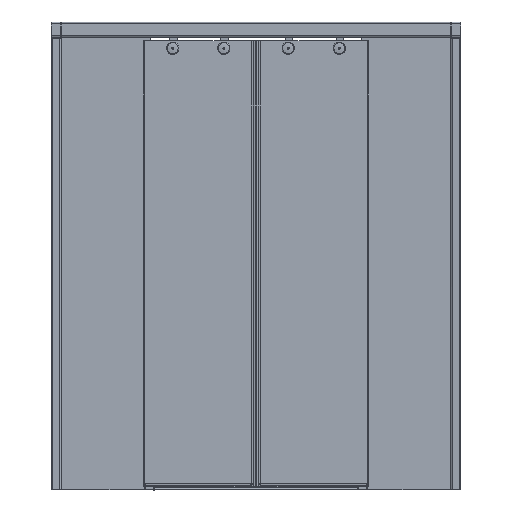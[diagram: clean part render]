
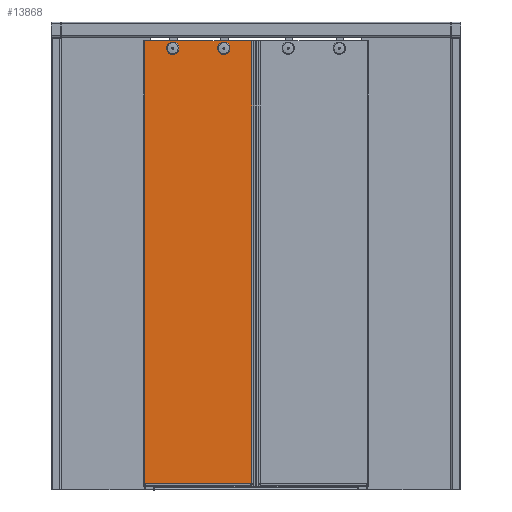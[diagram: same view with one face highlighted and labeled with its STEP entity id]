
A CAD part, left-side view. The second image highlights one B-rep face of the part: STEP entity #13868.
In plain terms, the highlighted planar face has unit normal (-1, 0, 0).
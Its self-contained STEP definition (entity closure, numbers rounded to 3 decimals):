
#365=FACE_BOUND($,#1385,.T.);
#366=FACE_BOUND($,#1386,.T.);
#367=FACE_BOUND($,#1387,.T.);
#1385=EDGE_LOOP($,(#9057));
#1386=EDGE_LOOP($,(#9058));
#1387=EDGE_LOOP($,(#9059,#9060,#9061,#9062));
#2086=CIRCLE($,#14535,18.5);
#2106=CIRCLE($,#14572,18.5);
#2577=LINE($,#20000,#3947);
#2658=LINE($,#20406,#4028);
#2679=LINE($,#20501,#4049);
#2680=LINE($,#20502,#4050);
#3947=VECTOR($,#15975,1514.4);
#4028=VECTOR($,#16226,370.3);
#4049=VECTOR($,#16301,1514.4);
#4050=VECTOR($,#16302,370.3);
#5302=VERTEX_POINT($,#19784);
#5331=VERTEX_POINT($,#19936);
#5352=VERTEX_POINT($,#19997);
#5353=VERTEX_POINT($,#19999);
#5447=VERTEX_POINT($,#20404);
#5462=VERTEX_POINT($,#20500);
#6630=EDGE_CURVE($,#5302,#5302,#2086,.T.);
#6668=EDGE_CURVE($,#5331,#5331,#2106,.T.);
#6693=EDGE_CURVE($,#5353,#5352,#2577,.T.);
#6830=EDGE_CURVE($,#5447,#5352,#2658,.T.);
#6863=EDGE_CURVE($,#5447,#5462,#2679,.T.);
#6864=EDGE_CURVE($,#5353,#5462,#2680,.T.);
#9057=ORIENTED_EDGE($,*,*,#6630,.T.);
#9058=ORIENTED_EDGE($,*,*,#6668,.T.);
#9059=ORIENTED_EDGE($,*,*,#6693,.T.);
#9060=ORIENTED_EDGE($,*,*,#6830,.F.);
#9061=ORIENTED_EDGE($,*,*,#6863,.T.);
#9062=ORIENTED_EDGE($,*,*,#6864,.F.);
#12623=PLANE($,#14703);
#13868=ADVANCED_FACE($,(#365,#366,#367),#12623,.T.);
#14535=AXIS2_PLACEMENT_3D($,#19785,#15832,#15833);
#14572=AXIS2_PLACEMENT_3D($,#19937,#15920,#15921);
#14703=AXIS2_PLACEMENT_3D($,#20499,#16299,#16300);
#15832=DIRECTION('center_axis',(1.,0.,0.));
#15833=DIRECTION('ref_axis',(0.,0.899,-0.437));
#15920=DIRECTION('center_axis',(1.,0.,0.));
#15921=DIRECTION('ref_axis',(0.,0.899,-0.437));
#15975=DIRECTION($,(0.,0.,-1.));
#16226=DIRECTION($,(0.,1.,0.));
#16299=DIRECTION('center_axis',(-1.,0.,0.));
#16300=DIRECTION('ref_axis',(0.,-1.,0.));
#16301=DIRECTION($,(0.,0.,1.));
#16302=DIRECTION($,(0.,-1.,0.));
#19784=CARTESIAN_POINT('',(814.286,224.183,2069.892));
#19785=CARTESIAN_POINT('Origin',(814.286,240.819,2061.8));
#19936=CARTESIAN_POINT('',(814.286,399.183,2069.892));
#19937=CARTESIAN_POINT('Origin',(814.286,415.819,2061.8));
#19997=CARTESIAN_POINT('',(814.286,511.119,572.4));
#19999=CARTESIAN_POINT('',(814.286,511.119,2086.8));
#20000=CARTESIAN_POINT($,(814.286,511.119,561.8));
#20404=CARTESIAN_POINT('',(814.286,140.819,572.4));
#20406=CARTESIAN_POINT($,(814.286,140.819,572.4));
#20499=CARTESIAN_POINT('Origin',(814.286,515.819,561.8));
#20500=CARTESIAN_POINT('',(814.286,140.819,2086.8));
#20501=CARTESIAN_POINT($,(814.286,140.819,561.8));
#20502=CARTESIAN_POINT($,(814.286,515.819,2086.8));
